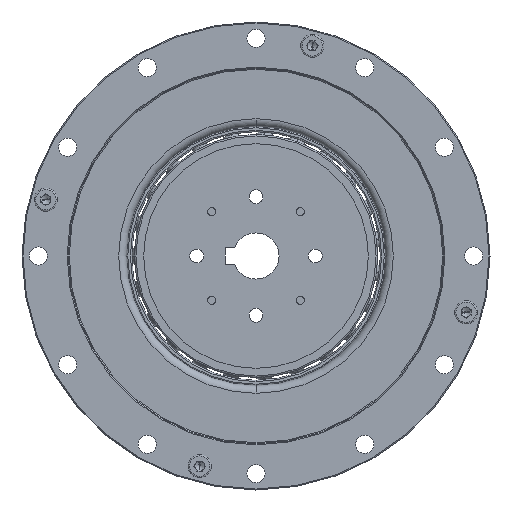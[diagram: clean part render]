
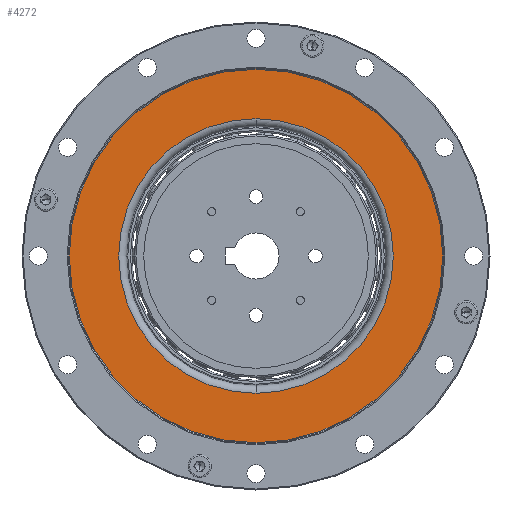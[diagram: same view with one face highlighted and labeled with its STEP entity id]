
A CAD part, left-side view. The second image highlights one B-rep face of the part: STEP entity #4272.
In plain terms, the highlighted planar face has unit normal (-1, 0, 0).
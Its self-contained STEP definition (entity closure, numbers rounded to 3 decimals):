
#738 = CARTESIAN_POINT ( 'NONE',  ( 5.14, 0., 56.675 ) ) ;
#1158 = ORIENTED_EDGE ( 'NONE', *, *, #4204, .T. ) ;
#2173 = CARTESIAN_POINT ( 'NONE',  ( 5.14, 0., 0. ) ) ;
#2245 = CIRCLE ( 'NONE', #13163, 56.675 ) ;
#2494 = CIRCLE ( 'NONE', #3131, 41.66 ) ;
#3131 = AXIS2_PLACEMENT_3D ( 'NONE', #8945, #22305, #10871 ) ;
#4074 = DIRECTION ( 'NONE',  ( 0., 0., 1. ) ) ;
#4204 = EDGE_CURVE ( 'NONE', #20843, #9940, #2245, .T. ) ;
#4272 = ADVANCED_FACE ( 'NONE', ( #15664, #20719 ), #10058, .F. ) ;
#4808 = ORIENTED_EDGE ( 'NONE', *, *, #12194, .T. ) ;
#5256 = ORIENTED_EDGE ( 'NONE', *, *, #14233, .F. ) ;
#5916 = CARTESIAN_POINT ( 'NONE',  ( 5.14, 0., -41.66 ) ) ;
#6223 = CARTESIAN_POINT ( 'NONE',  ( 5.14, 56.675, 0. ) ) ;
#6845 = ORIENTED_EDGE ( 'NONE', *, *, #24673, .F. ) ;
#7143 = EDGE_LOOP ( 'NONE', ( #4808, #1158 ) ) ;
#7176 = AXIS2_PLACEMENT_3D ( 'NONE', #21211, #9776, #23145 ) ;
#8945 = CARTESIAN_POINT ( 'NONE',  ( 5.14, 0., 0. ) ) ;
#9013 = DIRECTION ( 'NONE',  ( -1., 0., 0. ) ) ;
#9776 = DIRECTION ( 'NONE',  ( -1., 0., 0. ) ) ;
#9940 = VERTEX_POINT ( 'NONE', #738 ) ;
#10058 = PLANE ( 'NONE',  #20830 ) ;
#10289 = EDGE_LOOP ( 'NONE', ( #5256, #6845 ) ) ;
#10871 = DIRECTION ( 'NONE',  ( 0., 0., 1. ) ) ;
#11982 = DIRECTION ( 'NONE',  ( 0., 0., -1. ) ) ;
#12194 = EDGE_CURVE ( 'NONE', #9940, #20843, #14299, .T. ) ;
#12404 = VERTEX_POINT ( 'NONE', #14792 ) ;
#13163 = AXIS2_PLACEMENT_3D ( 'NONE', #2173, #15502, #4074 ) ;
#14233 = EDGE_CURVE ( 'NONE', #12404, #21396, #15831, .T. ) ;
#14299 = CIRCLE ( 'NONE', #7176, 56.675 ) ;
#14792 = CARTESIAN_POINT ( 'NONE',  ( 5.14, 0., 41.66 ) ) ;
#15502 = DIRECTION ( 'NONE',  ( -1., 0., 0. ) ) ;
#15664 = FACE_BOUND ( 'NONE', #10289, .T. ) ;
#15831 = CIRCLE ( 'NONE', #19544, 41.66 ) ;
#17531 = CARTESIAN_POINT ( 'NONE',  ( 5.14, 0., -56.675 ) ) ;
#19544 = AXIS2_PLACEMENT_3D ( 'NONE', #20441, #9013, #22373 ) ;
#20441 = CARTESIAN_POINT ( 'NONE',  ( 5.14, 0., 0. ) ) ;
#20719 = FACE_OUTER_BOUND ( 'NONE', #7143, .T. ) ;
#20830 = AXIS2_PLACEMENT_3D ( 'NONE', #6223, #23429, #11982 ) ;
#20843 = VERTEX_POINT ( 'NONE', #17531 ) ;
#21211 = CARTESIAN_POINT ( 'NONE',  ( 5.14, 0., 0. ) ) ;
#21396 = VERTEX_POINT ( 'NONE', #5916 ) ;
#22305 = DIRECTION ( 'NONE',  ( -1., 0., 0. ) ) ;
#22373 = DIRECTION ( 'NONE',  ( 0., 0., 1. ) ) ;
#23145 = DIRECTION ( 'NONE',  ( 0., 0., 1. ) ) ;
#23429 = DIRECTION ( 'NONE',  ( 1., 0., 0. ) ) ;
#24673 = EDGE_CURVE ( 'NONE', #21396, #12404, #2494, .T. ) ;
